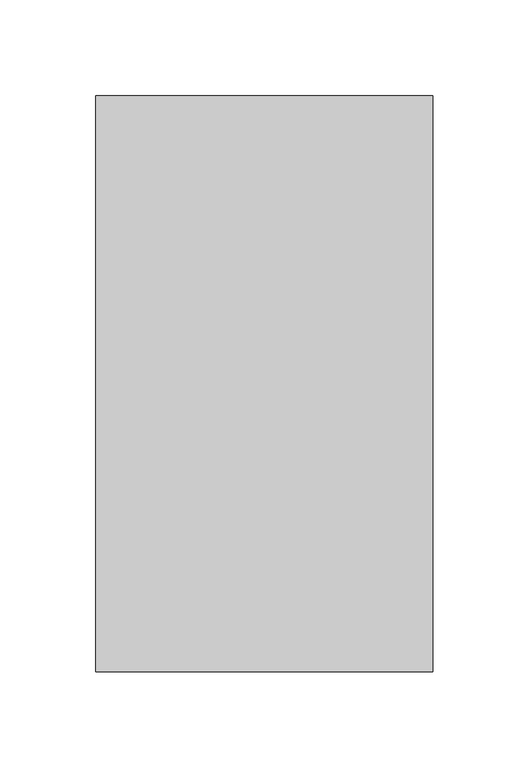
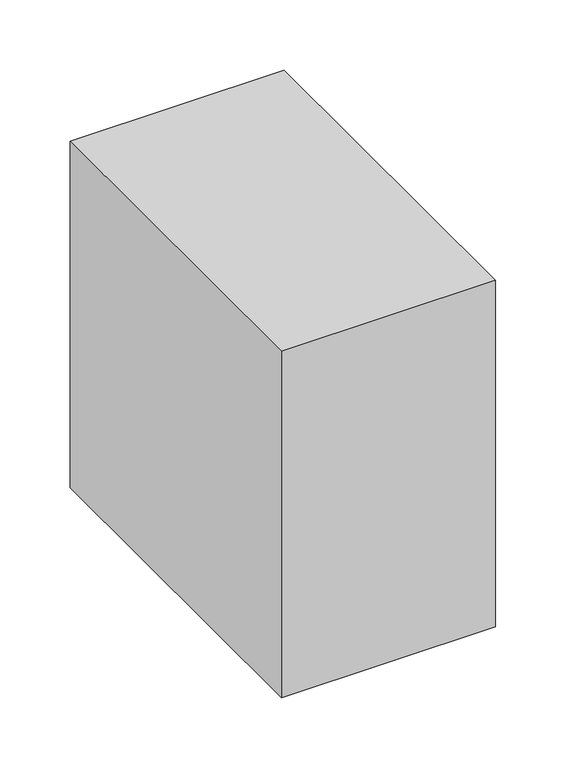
"""IFC4 building model written with IfcOpenShell, lengths in millimetres: duct fitting geometry, M_Encaixe de duto retangular : Padrão."""

from ifc_helpers import new_model, si_unit, frame, origin, place, context, project, spatial, polyline, outline, extrude, source, transform, mapped, element, save


def duct_fitting_95c1ddea(model_context):
    return source(origin(), model_context, "Body", "SweptSolid", [
        extrude(outline(polyline([(-73.8084344, -150.0), (-73.8084344, 150.0), (101.6, 150.0), (101.6, -150.0), (-73.8084344, -150.0)])), frame((0.0, 0.0, -150.0), z_axis=(0.0, 0.0, 1.0), x_axis=(1.0, 0.0, 0.0)), (0.0, 0.0, 1.0), 300.0),
    ])


if __name__ == "__main__":
    model = new_model("IFC4")
    model_context = context("Model", 3, world=origin())
    ifc_project = project(units=[si_unit("LENGTHUNIT", "METRE", prefix="MILLI")], contexts=[model_context])
    site = spatial("IfcSite", under=ifc_project)
    building = spatial("IfcBuilding", under=site)
    placement = place(None, origin())
    duct_fitting_shape = duct_fitting_95c1ddea(model_context)
    element("IfcDuctFitting", 1, ObjectType="M_Encaixe de duto retangular : Padrão", at=placement, inside=building, context=model_context, shape_type="MappedRepresentation", body=[
        mapped(duct_fitting_shape, transform((0.0, 0.0, 0.0), x_axis=(1.0, 0.0, 0.0), y_axis=(0.0, 1.0, 0.0), z_axis=(0.0, 0.0, 1.0))),
    ])
    save(model, "model.ifc")
